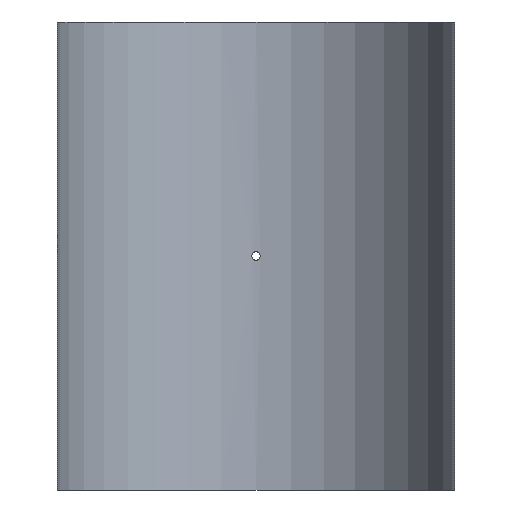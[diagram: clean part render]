
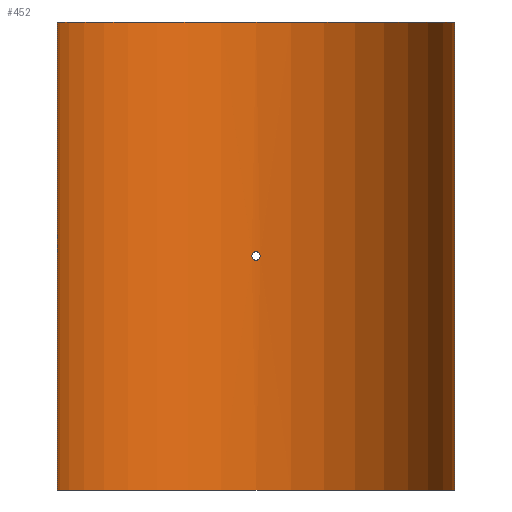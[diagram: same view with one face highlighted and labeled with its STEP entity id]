
A CAD part, front view. The second image highlights one B-rep face of the part: STEP entity #452.
In plain terms, the highlighted cylindrical face has radius 225 mm (diameter 450 mm), a partial arc.
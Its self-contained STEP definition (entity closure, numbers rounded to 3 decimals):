
#19=B_SPLINE_CURVE_WITH_KNOTS('',3,(#788,#789,#790,#791,#792,#793,#794,
#795,#796,#797,#798,#799,#800,#801,#802,#803,#804,#805,#806,#807,#808,#809,
#810,#811,#812,#813,#814,#815,#816,#817,#818,#819,#820,#821),
 .UNSPECIFIED.,.T.,.F.,(4,2,2,2,2,2,2,2,2,2,2,2,2,2,2,2,4),(0.,0.181,
0.362,0.542,0.723,0.904,
1.085,1.266,1.447,1.627,1.808,
1.989,2.17,2.351,2.531,2.712,
2.893),.UNSPECIFIED.);
#43=LINE('',#1081,#62);
#44=LINE('',#1084,#63);
#62=VECTOR('',#661,10.);
#63=VECTOR('',#664,10.);
#76=CYLINDRICAL_SURFACE('',#530,225.);
#88=FACE_BOUND('',#167,.T.);
#127=FACE_OUTER_BOUND('',#166,.T.);
#166=EDGE_LOOP('',(#405,#406,#407,#408));
#167=EDGE_LOOP('',(#409));
#201=CIRCLE('',#529,225.);
#202=CIRCLE('',#531,225.);
#219=VERTEX_POINT('',#786);
#242=VERTEX_POINT('',#1074);
#243=VERTEX_POINT('',#1076);
#244=VERTEX_POINT('',#1080);
#245=VERTEX_POINT('',#1082);
#267=EDGE_CURVE('',#219,#219,#19,.T.);
#299=EDGE_CURVE('',#242,#243,#201,.T.);
#301=EDGE_CURVE('',#244,#242,#43,.T.);
#302=EDGE_CURVE('',#245,#244,#202,.T.);
#303=EDGE_CURVE('',#245,#243,#44,.T.);
#405=ORIENTED_EDGE('',*,*,#301,.F.);
#406=ORIENTED_EDGE('',*,*,#302,.F.);
#407=ORIENTED_EDGE('',*,*,#303,.T.);
#408=ORIENTED_EDGE('',*,*,#299,.F.);
#409=ORIENTED_EDGE('',*,*,#267,.T.);
#452=ADVANCED_FACE('',(#127,#88),#76,.F.);
#529=AXIS2_PLACEMENT_3D('',#1077,#656,#657);
#530=AXIS2_PLACEMENT_3D('',#1079,#659,#660);
#531=AXIS2_PLACEMENT_3D('',#1083,#662,#663);
#656=DIRECTION('center_axis',(0.,0.,1.));
#657=DIRECTION('ref_axis',(1.,0.,0.));
#659=DIRECTION('center_axis',(0.,0.,1.));
#660=DIRECTION('ref_axis',(1.,0.,0.));
#661=DIRECTION('',(0.,0.,-1.));
#662=DIRECTION('center_axis',(0.,0.,-1.));
#663=DIRECTION('ref_axis',(1.,0.,0.));
#664=DIRECTION('',(0.,0.,-1.));
#786=CARTESIAN_POINT('',(4.8,224.949,0.));
#788=CARTESIAN_POINT('Ctrl Pts',(4.8,224.949,0.));
#789=CARTESIAN_POINT('Ctrl Pts',(4.8,224.949,-0.603));
#790=CARTESIAN_POINT('Ctrl Pts',(4.68,224.951,-1.246));
#791=CARTESIAN_POINT('Ctrl Pts',(4.19,224.961,-2.428));
#792=CARTESIAN_POINT('Ctrl Pts',(3.82,224.968,-2.968));
#793=CARTESIAN_POINT('Ctrl Pts',(2.968,224.981,-3.82));
#794=CARTESIAN_POINT('Ctrl Pts',(2.428,224.988,-4.19));
#795=CARTESIAN_POINT('Ctrl Pts',(1.246,224.997,-4.68));
#796=CARTESIAN_POINT('Ctrl Pts',(0.603,225.,-4.8));
#797=CARTESIAN_POINT('Ctrl Pts',(-0.603,225.,-4.8));
#798=CARTESIAN_POINT('Ctrl Pts',(-1.246,224.997,-4.68));
#799=CARTESIAN_POINT('Ctrl Pts',(-2.428,224.988,-4.19));
#800=CARTESIAN_POINT('Ctrl Pts',(-2.968,224.981,-3.82));
#801=CARTESIAN_POINT('Ctrl Pts',(-3.82,224.968,-2.968));
#802=CARTESIAN_POINT('Ctrl Pts',(-4.19,224.961,-2.428));
#803=CARTESIAN_POINT('Ctrl Pts',(-4.68,224.951,-1.246));
#804=CARTESIAN_POINT('Ctrl Pts',(-4.8,224.949,-0.603));
#805=CARTESIAN_POINT('Ctrl Pts',(-4.8,224.949,0.603));
#806=CARTESIAN_POINT('Ctrl Pts',(-4.68,224.951,1.246));
#807=CARTESIAN_POINT('Ctrl Pts',(-4.19,224.961,2.428));
#808=CARTESIAN_POINT('Ctrl Pts',(-3.82,224.968,2.968));
#809=CARTESIAN_POINT('Ctrl Pts',(-2.968,224.981,3.82));
#810=CARTESIAN_POINT('Ctrl Pts',(-2.428,224.988,4.19));
#811=CARTESIAN_POINT('Ctrl Pts',(-1.246,224.997,4.68));
#812=CARTESIAN_POINT('Ctrl Pts',(-0.603,225.,4.8));
#813=CARTESIAN_POINT('Ctrl Pts',(0.603,225.,4.8));
#814=CARTESIAN_POINT('Ctrl Pts',(1.246,224.997,4.68));
#815=CARTESIAN_POINT('Ctrl Pts',(2.428,224.988,4.19));
#816=CARTESIAN_POINT('Ctrl Pts',(2.968,224.981,3.82));
#817=CARTESIAN_POINT('Ctrl Pts',(3.82,224.968,2.968));
#818=CARTESIAN_POINT('Ctrl Pts',(4.19,224.961,2.428));
#819=CARTESIAN_POINT('Ctrl Pts',(4.68,224.951,1.246));
#820=CARTESIAN_POINT('Ctrl Pts',(4.8,224.949,0.603));
#821=CARTESIAN_POINT('Ctrl Pts',(4.8,224.949,0.));
#1074=CARTESIAN_POINT('',(225.,0.,-265.));
#1076=CARTESIAN_POINT('',(-225.,0.,-265.));
#1077=CARTESIAN_POINT('Origin',(0.,0.,
-265.));
#1079=CARTESIAN_POINT('Origin',(0.,0.,
0.));
#1080=CARTESIAN_POINT('',(225.,0.,265.));
#1081=CARTESIAN_POINT('',(225.,0.,0.));
#1082=CARTESIAN_POINT('',(-225.,0.,265.));
#1083=CARTESIAN_POINT('Origin',(0.,0.,
265.));
#1084=CARTESIAN_POINT('',(-225.,0.,0.));
